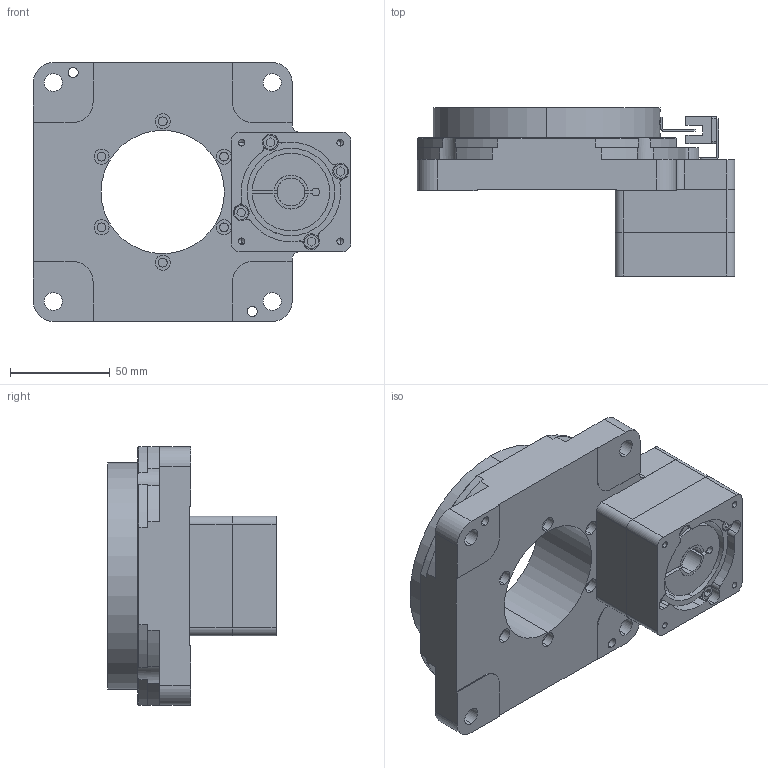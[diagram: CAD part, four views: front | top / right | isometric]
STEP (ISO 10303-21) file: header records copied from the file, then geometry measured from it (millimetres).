
FILE_DESCRIPTION(('Open CASCADE Model'),'2;1');
FILE_NAME('Open CASCADE Shape Model','2026-10-11T02:42:06',('Author'),( 'Open CASCADE'),'Open CASCADE STEP processor 7.8','Open CASCADE 7.8' ,'Unknown');
FILE_SCHEMA(('AUTOMOTIVE_DESIGN { 1 0 10303 214 1 1 1 1 }'));
Length unit declared in the file: millimetre
Products named in the file (3): NT130-10(配伺服400W 输入14-32 50-5 4-M4-70); NT130-10(配伺服400W 输入14-32 50-5 4-M4-70)-01; NT130-10(配伺服400W 输入14-32 50-5 4-M4-70)-02
Assembly tree (2 placements, depth 2):
  NT130-10(配伺服400W 输入14-32 50-5 4-M4-70)
    NT130-10(配伺服400W 输入14-32 50-5 4-M4-70)-01
    NT130-10(配伺服400W 输入14-32 50-5 4-M4-70)-02
Bounding box: 159.4 x 84.5 x 130 mm (x, y, z)
Volume: 589572.6 mm3; surface area: 99858.9 mm2
Topology: 6 solids, 6 shells, 1064 faces, 2918 edges, 1912 vertices
Faces by surface type: plane 801, cylinder 219, cone 44
Entity records: 71502 total; most frequent: CARTESIAN_POINT 15719, DIRECTION 9714, LINE 6502, VECTOR 6502, ORIENTED_EDGE 5764, PCURVE 5764, DEFINITIONAL_REPRESENTATION 5764, EDGE_CURVE 2882
